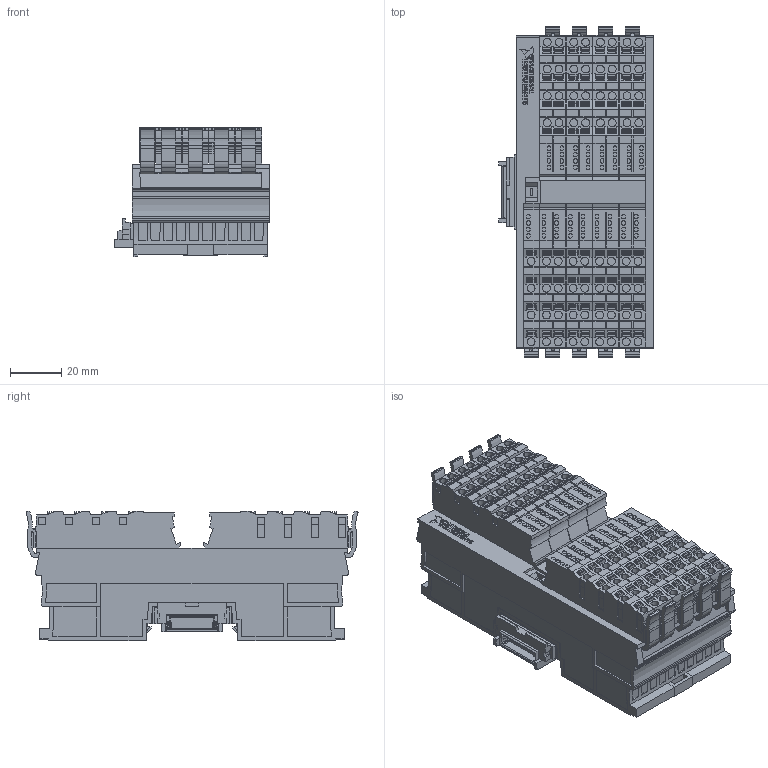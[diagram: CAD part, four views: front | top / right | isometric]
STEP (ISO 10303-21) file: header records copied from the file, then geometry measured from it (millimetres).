
FILE_DESCRIPTION((''),'2;1');
FILE_NAME('CU_REM-11175','2017-05-11T',('dkendric'),(''),'CREO PARAMETRIC BY PTC INC, 2015380','CREO PARAMETRIC BY PTC INC, 2015380','');
FILE_SCHEMA(('CONFIG_CONTROL_DESIGN'));
Length unit declared in the file: inch
Products named in the file (1): CU_REM-11175
Bounding box: 60.4 x 129.85 x 50.6 mm (x, y, z)
Volume: 271197.1 mm3; surface area: 77663.9 mm2
Topology: 1 solids, 32 shells, 4913 faces, 13586 edges, 9001 vertices
Faces by surface type: plane 3823, cylinder 1011, extrusion 79
Entity records: 155978 total; most frequent: CARTESIAN_POINT 28670, ORIENTED_EDGE 27172, DIRECTION 25238, EDGE_CURVE 13586, VECTOR 11282, LINE 11203, VERTEX_POINT 9001, AXIS2_PLACEMENT_3D 6978
